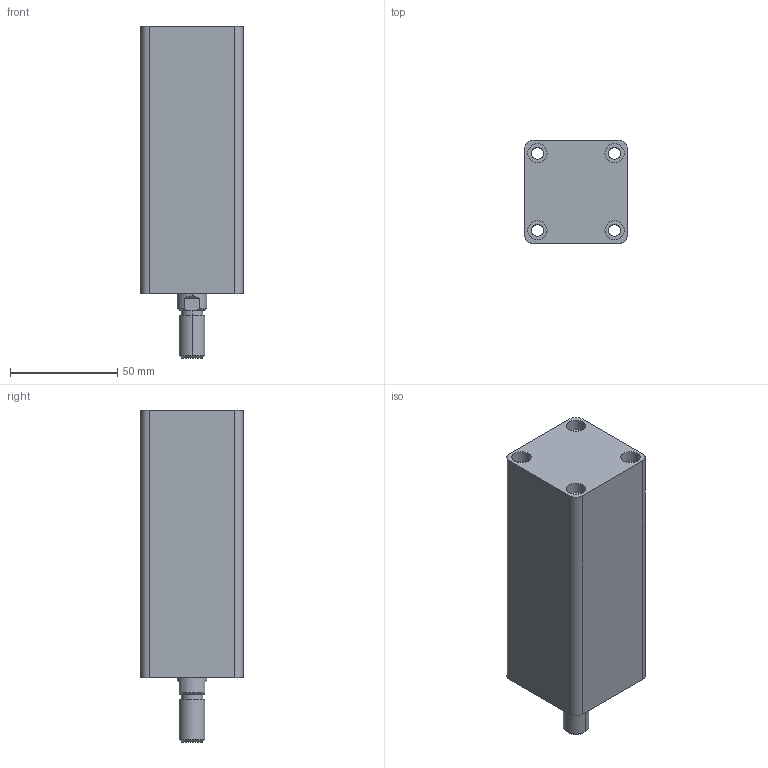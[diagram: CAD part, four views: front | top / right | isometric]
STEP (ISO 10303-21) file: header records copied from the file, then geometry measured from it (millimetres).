
FILE_DESCRIPTION (( 'STEP AP203' ), '1' );
FILE_NAME ('HTB-SD25-80W.STEP', '2019-10-07T06:20:04', ( '微软用户' ), ( '微软中国' ), 'SwSTEP 2.0', 'SolidWorks 2012', '' );
FILE_SCHEMA (( 'CONFIG_CONTROL_DESIGN' ));
Length unit declared in the file: millimetre
Products named in the file (3): HTB-SD25-80掛极; HTB-SD25-80W活塞杆; HTB-SD25-80W
Assembly tree (2 placements, depth 2):
  HTB-SD25-80W
    HTB-SD25-80掛极
    HTB-SD25-80W活塞杆
Bounding box: 48 x 48 x 155 mm (x, y, z)
Volume: 247847.7 mm3; surface area: 54144.1 mm2
Topology: 2 solids, 2 shells, 87 faces, 188 edges, 122 vertices
Faces by surface type: cylinder 44, plane 29, cone 8, torus 6
Entity records: 2759 total; most frequent: DIRECTION 476, CARTESIAN_POINT 446, ORIENTED_EDGE 376, AXIS2_PLACEMENT_3D 204, EDGE_CURVE 188, VERTEX_POINT 122, EDGE_LOOP 112, CIRCLE 112
